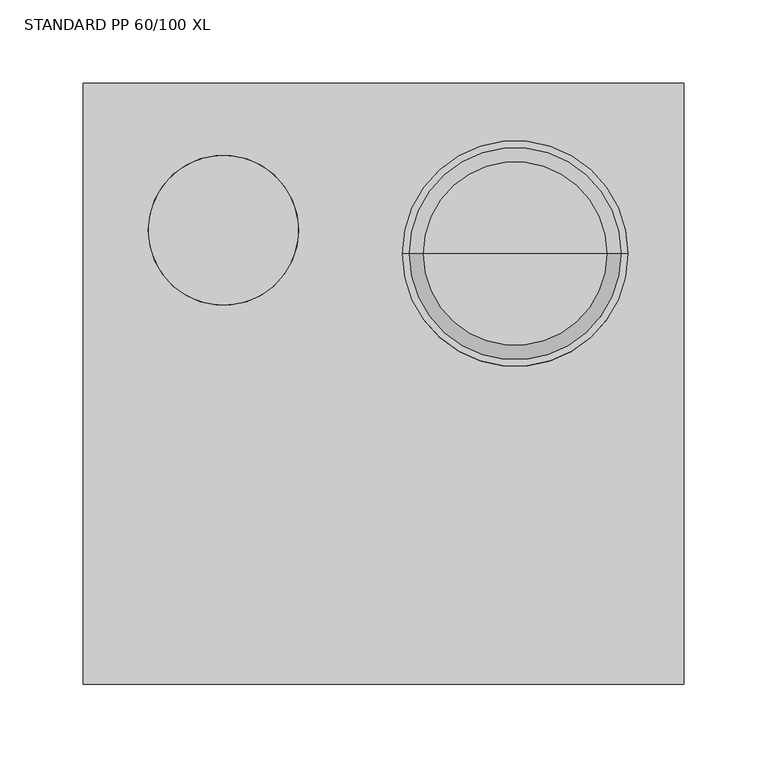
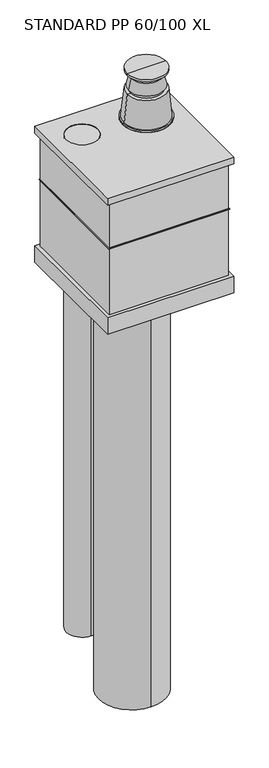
"""IFC4 building model written with IfcOpenShell, lengths in millimetres: proxy geometry, RSen_GM_WPB_Mini-Delta_M&G : STANDARD PP 60/100 XL."""

from ifc_helpers import new_model, si_unit, point, frame, frame_2d, origin, place, context, project, spatial, polyline, circle_curve, trimmed, segment, composite_curve, outline, extrude, faceted_brep, source, transform, mapped, element, save
from ifc_brep_helpers import plane_surface, cylinder_surface, revolved_surface, advanced_brep


def standard_pp_60_100_xl_17edb1f3(model_context):
    return source(origin(), model_context, "Body", "SolidModel", [
        advanced_brep(
        [(166.5, 78.0, 568.2650457), (-8.5, 78.0, 568.2650457), (79.0, 78.0, 568.2650457), (146.6156617, 78.0, 677.2650457), (11.3843383, 78.0, 677.2650457), (146.6156617, 78.0, 682.2650457), (11.3843383, 78.0, 682.2650457), (142.6549252, 78.0, 682.2650457), (15.3450748, 78.0, 682.2650457), (134.0, 78.0, 764.611158), (24.0, 78.0, 764.611158), (124.0, 78.0, 764.611158), (34.0, 78.0, 764.611158), (124.0, 78.0, 774.611158), (34.0, 78.0, 774.611158), (129.038744, 78.0, 774.611158), (28.961256, 78.0, 774.611158), (121.5, 78.0, 807.2650457), (36.5, 78.0, 807.2650457), (89.0, 78.0, 807.2650457), (69.0, 78.0, 807.2650457), (89.0, 78.0, 809.2457936), (69.0, 78.0, 809.2457936), (134.0, 78.0, 821.3035072), (24.0, 78.0, 821.3035072), (134.0, 78.0, 827.2650457), (24.0, 78.0, 827.2650457), (79.0, 78.0, 827.2650457)],
        [
            (0, 1, circle_curve(frame((79.0, 78.0, 568.2650457), z_axis=(0.0, 0.0, -1.0), x_axis=(-1.0, 0.0, 0.0)), 87.5)),
            (1, 2),
            (2, 0),
            (1, 0, circle_curve(frame((79.0, 78.0, 568.2650457), z_axis=(0.0, 0.0, -1.0), x_axis=(-1.0, 0.0, 0.0)), 87.5)),
            (3, 4, circle_curve(frame((79.0, 78.0, 677.2650457), z_axis=(0.0, 0.0, -1.0), x_axis=(-1.0, 0.0, 0.0)), 67.6156617)),
            (4, 1),
            (0, 3),
            (4, 3, circle_curve(frame((79.0, 78.0, 677.2650457), z_axis=(0.0, 0.0, -1.0), x_axis=(-1.0, 0.0, 0.0)), 67.6156617)),
            (5, 6, circle_curve(frame((79.0, 78.0, 682.2650457), z_axis=(0.0, 0.0, -1.0), x_axis=(-1.0, 0.0, 0.0)), 67.6156617)),
            (6, 4),
            (3, 5),
            (6, 5, circle_curve(frame((79.0, 78.0, 682.2650457), z_axis=(0.0, 0.0, -1.0), x_axis=(-1.0, 0.0, 0.0)), 67.6156617)),
            (7, 8, circle_curve(frame((79.0, 78.0, 682.2650457), z_axis=(0.0, 0.0, -1.0), x_axis=(-1.0, 0.0, 0.0)), 63.6549252)),
            (8, 6),
            (5, 7),
            (8, 7, circle_curve(frame((79.0, 78.0, 682.2650457), z_axis=(0.0, 0.0, -1.0), x_axis=(-1.0, 0.0, 0.0)), 63.6549252)),
            (9, 10, circle_curve(frame((79.0, 78.0, 764.611158), z_axis=(0.0, 0.0, -1.0), x_axis=(-1.0, 0.0, 0.0)), 55.0)),
            (10, 8),
            (7, 9),
            (10, 9, circle_curve(frame((79.0, 78.0, 764.611158), z_axis=(0.0, 0.0, -1.0), x_axis=(-1.0, 0.0, 0.0)), 55.0)),
            (11, 12, circle_curve(frame((79.0, 78.0, 764.611158), z_axis=(0.0, 0.0, -1.0), x_axis=(-1.0, 0.0, 0.0)), 45.0)),
            (12, 10),
            (9, 11),
            (12, 11, circle_curve(frame((79.0, 78.0, 764.611158), z_axis=(0.0, 0.0, -1.0), x_axis=(-1.0, 0.0, 0.0)), 45.0)),
            (13, 14, circle_curve(frame((79.0, 78.0, 774.611158), z_axis=(0.0, 0.0, -1.0), x_axis=(-1.0, 0.0, 0.0)), 45.0)),
            (14, 12),
            (11, 13),
            (14, 13, circle_curve(frame((79.0, 78.0, 774.611158), z_axis=(0.0, 0.0, -1.0), x_axis=(-1.0, 0.0, 0.0)), 45.0)),
            (15, 16, circle_curve(frame((79.0, 78.0, 774.611158), z_axis=(0.0, 0.0, -1.0), x_axis=(-1.0, 0.0, 0.0)), 50.038744)),
            (16, 14),
            (13, 15),
            (16, 15, circle_curve(frame((79.0, 78.0, 774.611158), z_axis=(0.0, 0.0, -1.0), x_axis=(-1.0, 0.0, 0.0)), 50.038744)),
            (17, 18, circle_curve(frame((79.0, 78.0, 807.2650457), z_axis=(0.0, 0.0, -1.0), x_axis=(-1.0, 0.0, 0.0)), 42.5)),
            (18, 16),
            (15, 17),
            (18, 17, circle_curve(frame((79.0, 78.0, 807.2650457), z_axis=(0.0, 0.0, -1.0), x_axis=(-1.0, 0.0, 0.0)), 42.5)),
            (19, 20, circle_curve(frame((79.0, 78.0, 807.2650457), z_axis=(0.0, 0.0, -1.0), x_axis=(-1.0, 0.0, 0.0)), 10.0)),
            (20, 18),
            (17, 19),
            (20, 19, circle_curve(frame((79.0, 78.0, 807.2650457), z_axis=(0.0, 0.0, -1.0), x_axis=(-1.0, 0.0, 0.0)), 10.0)),
            (21, 22, circle_curve(frame((79.0, 78.0, 809.2457936), z_axis=(0.0, 0.0, -1.0), x_axis=(-1.0, 0.0, 0.0)), 10.0)),
            (22, 20),
            (19, 21),
            (22, 21, circle_curve(frame((79.0, 78.0, 809.2457936), z_axis=(0.0, 0.0, -1.0), x_axis=(-1.0, 0.0, 0.0)), 10.0)),
            (23, 24, circle_curve(frame((79.0, 78.0, 821.3035072), z_axis=(0.0, 0.0, -1.0), x_axis=(-1.0, 0.0, 0.0)), 55.0)),
            (24, 22),
            (21, 23),
            (24, 23, circle_curve(frame((79.0, 78.0, 821.3035072), z_axis=(0.0, 0.0, -1.0), x_axis=(-1.0, 0.0, 0.0)), 55.0)),
            (25, 26, circle_curve(frame((79.0, 78.0, 827.2650457), z_axis=(0.0, 0.0, -1.0), x_axis=(-1.0, 0.0, 0.0)), 55.0)),
            (26, 24),
            (23, 25),
            (26, 25, circle_curve(frame((79.0, 78.0, 827.2650457), z_axis=(0.0, 0.0, -1.0), x_axis=(-1.0, 0.0, 0.0)), 55.0)),
            (27, 26),
            (25, 27),
        ],
        [
            plane_surface(frame((79.0, 78.0, 568.2650457), z_axis=(0.0, 0.0, -1.0), x_axis=(-1.0, 0.0, 0.0))),
            revolved_surface(polyline([(-8.5, 78.0, 568.2650457), (11.3843383, 78.0, 677.2650457)]), (79.0, 78.0, -231.4661326), (0.0, 0.0, 1.0)),
            cylinder_surface(frame((79.0, 78.0, -231.4661326), z_axis=(0.0, 0.0, 1.0), x_axis=(-1.0, 0.0, 0.0)), 67.6156617),
            plane_surface(frame((79.0, 78.0, 682.2650457), z_axis=(0.0, 0.0, 1.0), x_axis=(-1.0, 0.0, 0.0))),
            revolved_surface(polyline([(15.3450748, 78.0, 682.2650457), (24.0, 78.0, 764.611158)]), (79.0, 78.0, -231.4661326), (0.0, 0.0, 1.0)),
            plane_surface(frame((79.0, 78.0, 764.611158), z_axis=(0.0, 0.0, 1.0), x_axis=(-1.0, 0.0, 0.0))),
            cylinder_surface(frame((79.0, 78.0, -231.4661326), z_axis=(0.0, 0.0, 1.0), x_axis=(-1.0, 0.0, 0.0)), 45.0),
            plane_surface(frame((79.0, 78.0, 774.611158), z_axis=(0.0, 0.0, -1.0), x_axis=(-1.0, 0.0, 0.0))),
            revolved_surface(polyline([(28.961256, 78.0, 774.611158), (36.5, 78.0, 807.2650457)]), (79.0, 78.0, -231.4661326), (0.0, 0.0, 1.0)),
            plane_surface(frame((79.0, 78.0, 807.2650457), z_axis=(0.0, 0.0, 1.0), x_axis=(-1.0, 0.0, 0.0))),
            cylinder_surface(frame((79.0, 78.0, -231.4661326), z_axis=(0.0, 0.0, 1.0), x_axis=(-1.0, 0.0, 0.0)), 10.0),
            revolved_surface(polyline([(69.0, 78.0, 809.2457936), (24.0, 78.0, 821.3035072)]), (79.0, 78.0, -231.4661326), (0.0, 0.0, 1.0)),
            cylinder_surface(frame((79.0, 78.0, -231.4661326), z_axis=(0.0, 0.0, 1.0), x_axis=(-1.0, 0.0, 0.0)), 55.0),
            plane_surface(frame((79.0, 78.0, 827.2650457), z_axis=(0.0, 0.0, 1.0), x_axis=(-1.0, 0.0, 0.0))),
        ],
        [
            (0, [[1, 2, 3]]),
            (0, [[4, -3, -2]]),
            (1, [[5, 6, -1, 7]]),
            (1, [[8, -7, -4, -6]]),
            (2, [[9, 10, -5, 11]]),
            (2, [[12, -11, -8, -10]]),
            (3, [[13, 14, -9, 15]]),
            (3, [[16, -15, -12, -14]]),
            (4, [[17, 18, -13, 19]]),
            (4, [[20, -19, -16, -18]]),
            (5, [[21, 22, -17, 23]]),
            (5, [[24, -23, -20, -22]]),
            (6, [[25, 26, -21, 27]]),
            (6, [[28, -27, -24, -26]]),
            (7, [[29, 30, -25, 31]]),
            (7, [[32, -31, -28, -30]]),
            (8, [[33, 34, -29, 35]]),
            (8, [[36, -35, -32, -34]]),
            (9, [[37, 38, -33, 39]]),
            (9, [[40, -39, -36, -38]]),
            (10, [[41, 42, -37, 43]]),
            (10, [[44, -43, -40, -42]]),
            (11, [[45, 46, -41, 47]]),
            (11, [[48, -47, -44, -46]]),
            (12, [[49, 50, -45, 51]]),
            (12, [[52, -51, -48, -50]]),
            (13, [[53, -49, 54]]),
            (13, [[-54, -52, -53]]),
        ],
    ),
        extrude(outline(polyline([(172.5, 172.5), (172.5, -172.5), (-172.5, -172.5), (-172.5, 172.5), (172.5, 172.5)])), frame((0.0, 0.0, 518.2650457), z_axis=(0.0, 0.0, 1.0), x_axis=(1.0, 0.0, 0.0)), (0.0, 0.0, 1.0), 1.3),
        extrude(outline(composite_curve([segment(trimmed(circle_curve(frame_2d((-96.0, 92.0)), 45.0), [point((-96.0, 47.0))], [point((-96.0, 137.0))], False, "CARTESIAN"), True, "CONTINUOUS"), segment(trimmed(circle_curve(frame_2d((-96.0, 92.0)), 45.0), [point((-96.0, 137.0))], [point((-96.0, 47.0))], False, "CARTESIAN"), True, "CONTINUOUS")], self_intersect=False)), frame((0.0, 0.0, -807.7349543), z_axis=(0.0, 0.0, 1.0), x_axis=(1.0, 0.0, 0.0)), (0.0, 0.0, 1.0), 1483.7),
        extrude(outline(composite_curve([segment(trimmed(circle_curve(frame_2d((79.0, 78.0)), 50.0), [point((79.0, 28.0))], [point((79.0, 128.0))], False, "CARTESIAN"), True, "CONTINUOUS"), segment(trimmed(circle_curve(frame_2d((79.0, 78.0)), 50.0), [point((79.0, 128.0))], [point((79.0, 28.0))], False, "CARTESIAN"), True, "CONTINUOUS")], self_intersect=False)), frame((0.0, 0.0, -641.7349543), z_axis=(0.0, 0.0, 1.0), x_axis=(1.0, 0.0, 0.0)), (0.0, 0.0, 1.0), 1299.0),
        extrude(outline(composite_curve([segment(trimmed(circle_curve(frame_2d((-31.0, -41.0)), 95.0), [point((-31.0, -136.0))], [point((-31.0, 54.0))], False, "CARTESIAN"), True, "CONTINUOUS"), segment(trimmed(circle_curve(frame_2d((-31.0, -41.0)), 95.0), [point((-31.0, 54.0))], [point((-31.0, -136.0))], False, "CARTESIAN"), True, "CONTINUOUS")], self_intersect=False)), frame((0.0, 0.0, -933.7349543), z_axis=(0.0, 0.0, 1.0), x_axis=(1.0, 0.0, 0.0)), (0.0, 0.0, 1.0), 1350.0),
        advanced_brep(
        [(180.0, 180.0, 677.2650457), (-180.0, 180.0, 677.2650457), (-180.0, -180.0, 677.2650457), (180.0, -180.0, 677.2650457), (-141.0, 92.0, 677.2650457), (-51.0, 92.0, 677.2650457), (180.0, 180.0, 657.2650457), (180.0, -180.0, 657.2650457), (-180.0, -180.0, 657.2650457), (-180.0, 180.0, 657.2650457), (178.7, 178.7, 657.2650457), (-178.7, 178.7, 657.2650457), (-178.7, -178.7, 657.2650457), (178.7, -178.7, 657.2650457), (170.0, 170.0, 657.2650457), (170.0, -170.0, 657.2650457), (-170.0, -170.0, 657.2650457), (-170.0, 170.0, 657.2650457), (168.7, -168.7, 657.2650457), (168.7, 168.7, 657.2650457), (-168.7, 168.7, 657.2650457), (-168.7, -168.7, 657.2650457), (178.7, 178.7, 675.9650457), (178.7, -178.7, 675.9650457), (-178.7, -178.7, 675.9650457), (-178.7, 178.7, 675.9650457), (170.0, 170.0, 675.9650457), (-170.0, 170.0, 675.9650457), (-170.0, -170.0, 675.9650457), (170.0, -170.0, 675.9650457), (168.7, -168.7, 675.9650457), (-168.7, -168.7, 675.9650457), (-168.7, 168.7, 675.9650457), (168.7, 168.7, 675.9650457), (-51.0, 92.0, 675.9650457), (-141.0, 92.0, 675.9650457)],
        [
            (0, 1),
            (1, 2),
            (2, 3),
            (3, 0),
            (4, 5, circle_curve(frame((-96.0, 92.0, 677.2650457), z_axis=(0.0, 0.0, -1.0), x_axis=(1.0, 0.0, 0.0)), 45.0)),
            (5, 4, circle_curve(frame((-96.0, 92.0, 677.2650457), z_axis=(0.0, 0.0, -1.0), x_axis=(1.0, 0.0, 0.0)), 45.0)),
            (6, 7),
            (7, 8),
            (8, 9),
            (9, 6),
            (10, 11),
            (11, 12),
            (12, 13),
            (13, 10),
            (14, 15),
            (15, 16),
            (16, 17),
            (17, 14),
            (18, 19),
            (19, 20),
            (20, 21),
            (21, 18),
            (0, 6),
            (9, 1),
            (8, 2),
            (7, 3),
            (22, 23),
            (23, 24),
            (24, 25),
            (25, 22),
            (26, 27),
            (27, 28),
            (28, 29),
            (29, 26),
            (30, 31),
            (31, 32),
            (32, 33),
            (33, 30),
            (34, 35, circle_curve(frame((-96.0, 92.0, 675.9650457), z_axis=(0.0, 0.0, 1.0), x_axis=(1.0, 0.0, 0.0)), 45.0)),
            (35, 34, circle_curve(frame((-96.0, 92.0, 675.9650457), z_axis=(0.0, 0.0, 1.0), x_axis=(1.0, 0.0, 0.0)), 45.0)),
            (25, 11),
            (10, 22),
            (24, 12),
            (23, 13),
            (29, 15),
            (14, 26),
            (28, 16),
            (27, 17),
            (33, 19),
            (18, 30),
            (32, 20),
            (31, 21),
            (4, 35),
            (34, 5),
        ],
        [
            plane_surface(frame((-180.0, 180.0, 677.2650457), z_axis=(0.0, 0.0, 1.0), x_axis=(-1.0, 0.0, 0.0))),
            plane_surface(frame((-180.0, 180.0, 657.2650457), z_axis=(0.0, 0.0, -1.0), x_axis=(1.0, 0.0, 0.0))),
            plane_surface(frame((180.0, 180.0, 677.2650457), z_axis=(0.0, 1.0, 0.0), x_axis=(0.0, 0.0, -1.0))),
            plane_surface(frame((-180.0, 180.0, 677.2650457), z_axis=(-1.0, 0.0, 0.0), x_axis=(0.0, 0.0, -1.0))),
            plane_surface(frame((-180.0, -180.0, 677.2650457), z_axis=(0.0, -1.0, 0.0), x_axis=(0.0, 0.0, -1.0))),
            plane_surface(frame((180.0, -180.0, 677.2650457), z_axis=(1.0, 0.0, 0.0), x_axis=(0.0, 0.0, -1.0))),
            plane_surface(frame((-170.0, 178.7, 675.9650457), z_axis=(0.0, 0.0, -1.0), x_axis=(-1.0, 0.0, 0.0))),
            plane_surface(frame((178.7, 178.7, 675.9650457), z_axis=(0.0, -1.0, 0.0), x_axis=(0.0, 0.0, -1.0))),
            plane_surface(frame((-178.7, 178.7, 675.9650457), z_axis=(1.0, 0.0, 0.0), x_axis=(0.0, 0.0, -1.0))),
            plane_surface(frame((-178.7, -178.7, 675.9650457), z_axis=(0.0, 1.0, 0.0), x_axis=(0.0, 0.0, -1.0))),
            plane_surface(frame((178.7, -178.7, 675.9650457), z_axis=(-1.0, 0.0, 0.0), x_axis=(0.0, 0.0, -1.0))),
            plane_surface(frame((170.0, 170.0, 675.9650457), z_axis=(1.0, 0.0, 0.0), x_axis=(0.0, 0.0, -1.0))),
            plane_surface(frame((170.0, -170.0, 675.9650457), z_axis=(0.0, -1.0, 0.0), x_axis=(0.0, 0.0, -1.0))),
            plane_surface(frame((-170.0, -170.0, 675.9650457), z_axis=(-1.0, 0.0, 0.0), x_axis=(0.0, 0.0, -1.0))),
            plane_surface(frame((-170.0, 170.0, 675.9650457), z_axis=(0.0, 1.0, 0.0), x_axis=(0.0, 0.0, -1.0))),
            plane_surface(frame((168.7, -168.7, 675.9650457), z_axis=(-1.0, 0.0, 0.0), x_axis=(0.0, 0.0, -1.0))),
            plane_surface(frame((168.7, 168.7, 675.9650457), z_axis=(0.0, -1.0, 0.0), x_axis=(0.0, 0.0, -1.0))),
            plane_surface(frame((-168.7, 168.7, 675.9650457), z_axis=(1.0, 0.0, 0.0), x_axis=(0.0, 0.0, -1.0))),
            plane_surface(frame((-168.7, -168.7, 675.9650457), z_axis=(0.0, 1.0, 0.0), x_axis=(0.0, 0.0, -1.0))),
            revolved_surface(polyline([(-51.0, 92.0, 675.9650457), (-51.0, 92.0, 677.2650457)]), (-96.0, 92.0, 657.2650457), (0.0, 0.0, -1.0)),
        ],
        [
            (0, [[1, 2, 3, 4], [5, 6]]),
            (1, [[7, 8, 9, 10], [11, 12, 13, 14]]),
            (1, [[15, 16, 17, 18], [19, 20, 21, 22]]),
            (2, [[-1, 23, -10, 24]]),
            (3, [[-2, -24, -9, 25]]),
            (4, [[-3, -25, -8, 26]]),
            (5, [[-4, -26, -7, -23]]),
            (6, [[27, 28, 29, 30], [31, 32, 33, 34]]),
            (6, [[35, 36, 37, 38], [39, 40]]),
            (7, [[-30, 41, -11, 42]]),
            (8, [[-29, 43, -12, -41]]),
            (9, [[-28, 44, -13, -43]]),
            (10, [[-27, -42, -14, -44]]),
            (11, [[-34, 45, -15, 46]]),
            (12, [[-33, 47, -16, -45]]),
            (13, [[-32, 48, -17, -47]]),
            (14, [[-31, -46, -18, -48]]),
            (15, [[-38, 49, -19, 50]]),
            (16, [[-37, 51, -20, -49]]),
            (17, [[-36, 52, -21, -51]]),
            (18, [[-35, -50, -22, -52]]),
            (19, [[53, -39, 54, -5]]),
            (19, [[-53, -6, -54, -40]]),
        ],
    ),
        faceted_brep([(170.0, 170.0, 675.9650457), (-170.0, 170.0, 675.9650457), (-170.0, -170.0, 675.9650457), (170.0, -170.0, 675.9650457), (168.7, 168.7, 675.9650457), (168.7, -168.7, 675.9650457), (-168.7, -168.7, 675.9650457), (-168.7, 168.7, 675.9650457), (170.0, 170.0, 318.2650457), (170.0, -170.0, 318.2650457), (-170.0, -170.0, 318.2650457), (-170.0, 170.0, 318.2650457), (168.7, 168.7, 318.2650457), (-168.7, 168.7, 318.2650457), (-168.7, -168.7, 318.2650457), (168.7, -168.7, 318.2650457), (170.0, 170.0, 657.2650457), (-170.0, 170.0, 657.2650457), (-170.0, -170.0, 657.2650457), (170.0, -170.0, 657.2650457), (168.7, 168.7, 657.2650457), (168.7, -168.7, 657.2650457), (-168.7, -168.7, 657.2650457), (-168.7, 168.7, 657.2650457)], [[[0, 1, 2, 3], [4, 5, 6, 7]], [[8, 9, 10, 11], [12, 13, 14, 15]], [[1, 0, 16, 8, 11, 17]], [[2, 1, 17, 11, 10, 18]], [[3, 2, 18, 10, 9, 19]], [[0, 3, 19, 9, 8, 16]], [[5, 4, 20, 12, 15, 21]], [[6, 5, 21, 15, 14, 22]], [[7, 6, 22, 14, 13, 23]], [[4, 7, 23, 13, 12, 20]]]),
        faceted_brep([(180.0, 180.0, 268.2650457), (180.0, -180.0, 268.2650457), (-180.0, -180.0, 268.2650457), (-180.0, 180.0, 268.2650457), (178.7, 178.7, 268.2650457), (-178.7, 178.7, 268.2650457), (-178.7, 78.3, 268.2650457), (178.7, 78.3, 268.2650457), (180.0, 180.0, 318.2650457), (-180.0, 180.0, 318.2650457), (-180.0, -180.0, 318.2650457), (180.0, -180.0, 318.2650457), (178.7, 178.7, 316.9650457), (178.7, 78.3, 316.9650457), (-178.7, 78.3, 316.9650457), (-178.7, 178.7, 316.9650457)], [[[0, 1, 2, 3], [4, 5, 6, 7]], [[8, 9, 10, 11]], [[0, 3, 9, 8]], [[3, 2, 10, 9]], [[2, 1, 11, 10]], [[1, 0, 8, 11]], [[12, 13, 14, 15]], [[12, 15, 5, 4]], [[15, 14, 6, 5]], [[14, 13, 7, 6]], [[13, 12, 4, 7]]]),
    ])


if __name__ == "__main__":
    model = new_model("IFC4")
    model_context = context("Model", 3, world=origin())
    ifc_project = project(units=[si_unit("LENGTHUNIT", "METRE", prefix="MILLI")], contexts=[model_context])
    site = spatial("IfcSite", under=ifc_project)
    building = spatial("IfcBuilding", under=site)
    placement = place(None, origin())
    standard_pp_60_100_xl_shape = standard_pp_60_100_xl_17edb1f3(model_context)
    element("IfcBuildingElementProxy", 1, Name="RSen_GM_WPB_Mini-Delta_M&G : STANDARD PP 60/100 XL", ObjectType="RSen_GM_WPB_Mini-Delta_M&G : STANDARD PP 60/100 XL", at=placement, inside=building, context=model_context, shape_type="MappedRepresentation", body=[
        mapped(standard_pp_60_100_xl_shape, transform((0.0, 0.0, 0.0), x_axis=(1.0, 0.0, 0.0), y_axis=(0.0, 1.0, 0.0), z_axis=(0.0, 0.0, 1.0))),
    ])
    save(model, "model.ifc")
